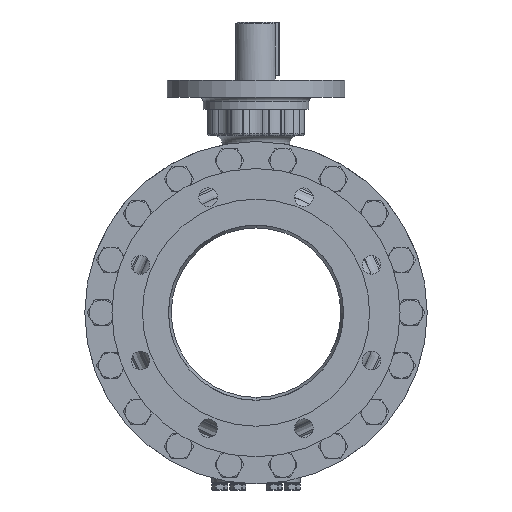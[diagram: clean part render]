
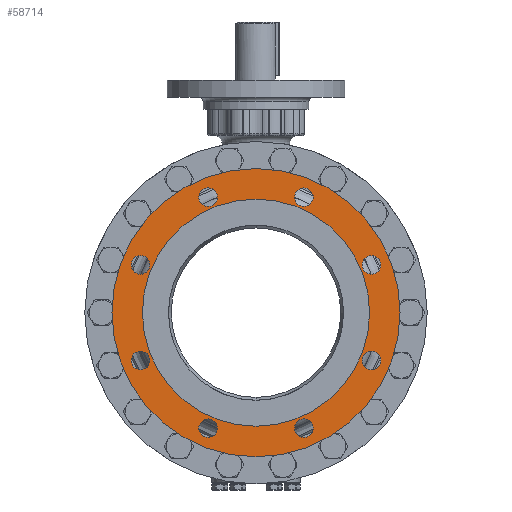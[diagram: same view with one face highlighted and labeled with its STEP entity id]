
A CAD part, left-side view. The second image highlights one B-rep face of the part: STEP entity #58714.
In plain terms, the highlighted planar face has unit normal (-1, 0, 0).
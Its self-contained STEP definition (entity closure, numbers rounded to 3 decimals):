
#4005=CARTESIAN_POINT('',(-225.5,0.,0.));
#4006=DIRECTION('',(-1.,0.,0.));
#4007=DIRECTION('',(0.,0.,1.));
#4008=AXIS2_PLACEMENT_3D('',#4005,#4006,#4007);
#4010=CARTESIAN_POINT('',(-225.5,0.,0.));
#4011=DIRECTION('',(-1.,0.,0.));
#4012=DIRECTION('',(0.,0.,-1.));
#4013=AXIS2_PLACEMENT_3D('',#4010,#4011,#4012);
#4015=CARTESIAN_POINT('',(-225.5,-56.446,136.272));
#4016=DIRECTION('',(-1.,0.,0.));
#4017=DIRECTION('',(0.,-1.,0.));
#4018=AXIS2_PLACEMENT_3D('',#4015,#4016,#4017);
#4020=CARTESIAN_POINT('',(-225.5,-56.446,136.272));
#4021=DIRECTION('',(-1.,0.,0.));
#4022=DIRECTION('',(0.,1.,0.));
#4023=AXIS2_PLACEMENT_3D('',#4020,#4021,#4022);
#4025=CARTESIAN_POINT('',(-225.5,56.446,136.272));
#4026=DIRECTION('',(-1.,0.,0.));
#4027=DIRECTION('',(0.,-0.707,0.707));
#4028=AXIS2_PLACEMENT_3D('',#4025,#4026,#4027);
#4030=CARTESIAN_POINT('',(-225.5,56.446,136.272));
#4031=DIRECTION('',(-1.,0.,0.));
#4032=DIRECTION('',(0.,0.707,-0.707));
#4033=AXIS2_PLACEMENT_3D('',#4030,#4031,#4032);
#4035=CARTESIAN_POINT('',(-225.5,136.272,56.446));
#4036=DIRECTION('',(-1.,0.,0.));
#4037=DIRECTION('',(0.,0.,1.));
#4038=AXIS2_PLACEMENT_3D('',#4035,#4036,#4037);
#4040=CARTESIAN_POINT('',(-225.5,136.272,56.446));
#4041=DIRECTION('',(-1.,0.,0.));
#4042=DIRECTION('',(0.,0.,-1.));
#4043=AXIS2_PLACEMENT_3D('',#4040,#4041,#4042);
#4045=CARTESIAN_POINT('',(-225.5,136.272,-56.446));
#4046=DIRECTION('',(-1.,0.,0.));
#4047=DIRECTION('',(0.,0.707,0.707));
#4048=AXIS2_PLACEMENT_3D('',#4045,#4046,#4047);
#4050=CARTESIAN_POINT('',(-225.5,136.272,-56.446));
#4051=DIRECTION('',(-1.,0.,0.));
#4052=DIRECTION('',(0.,-0.707,-0.707));
#4053=AXIS2_PLACEMENT_3D('',#4050,#4051,#4052);
#4055=CARTESIAN_POINT('',(-225.5,56.446,-136.272));
#4056=DIRECTION('',(-1.,0.,0.));
#4057=DIRECTION('',(0.,1.,0.));
#4058=AXIS2_PLACEMENT_3D('',#4055,#4056,#4057);
#4060=CARTESIAN_POINT('',(-225.5,56.446,-136.272));
#4061=DIRECTION('',(-1.,0.,0.));
#4062=DIRECTION('',(0.,-1.,0.));
#4063=AXIS2_PLACEMENT_3D('',#4060,#4061,#4062);
#4065=CARTESIAN_POINT('',(-225.5,-56.446,-136.272));
#4066=DIRECTION('',(-1.,0.,0.));
#4067=DIRECTION('',(0.,0.707,-0.707));
#4068=AXIS2_PLACEMENT_3D('',#4065,#4066,#4067);
#4070=CARTESIAN_POINT('',(-225.5,-56.446,-136.272));
#4071=DIRECTION('',(-1.,0.,0.));
#4072=DIRECTION('',(0.,-0.707,0.707));
#4073=AXIS2_PLACEMENT_3D('',#4070,#4071,#4072);
#4075=CARTESIAN_POINT('',(-225.5,-136.272,-56.446));
#4076=DIRECTION('',(-1.,0.,0.));
#4077=DIRECTION('',(0.,0.,-1.));
#4078=AXIS2_PLACEMENT_3D('',#4075,#4076,#4077);
#4080=CARTESIAN_POINT('',(-225.5,-136.272,-56.446));
#4081=DIRECTION('',(-1.,0.,0.));
#4082=DIRECTION('',(0.,0.,1.));
#4083=AXIS2_PLACEMENT_3D('',#4080,#4081,#4082);
#4085=CARTESIAN_POINT('',(-225.5,-136.272,56.446));
#4086=DIRECTION('',(-1.,0.,0.));
#4087=DIRECTION('',(0.,-0.707,-0.707));
#4088=AXIS2_PLACEMENT_3D('',#4085,#4086,#4087);
#4090=CARTESIAN_POINT('',(-225.5,-136.272,56.446));
#4091=DIRECTION('',(-1.,0.,0.));
#4092=DIRECTION('',(0.,0.707,0.707));
#4093=AXIS2_PLACEMENT_3D('',#4090,#4091,#4092);
#4099=CARTESIAN_POINT('',(-225.5,0.,0.));
#4100=DIRECTION('',(-1.,0.,0.));
#4101=DIRECTION('',(0.,0.,1.));
#4102=AXIS2_PLACEMENT_3D('',#4099,#4100,#4101);
#4128=CARTESIAN_POINT('',(-225.5,0.,0.));
#4129=DIRECTION('',(1.,0.,0.));
#4130=DIRECTION('',(0.,0.,1.));
#4131=AXIS2_PLACEMENT_3D('',#4128,#4129,#4130);
#48798=CARTESIAN_POINT('',(-225.5,0.,134.));
#48799=CARTESIAN_POINT('',(-225.5,0.,-134.));
#48800=VERTEX_POINT('',#48798);
#48801=VERTEX_POINT('',#48799);
#48802=CARTESIAN_POINT('',(-225.5,0.,170.));
#48803=CARTESIAN_POINT('',(-225.5,0.,-170.));
#48804=VERTEX_POINT('',#48802);
#48805=VERTEX_POINT('',#48803);
#48818=CARTESIAN_POINT('',(-225.5,-67.446,136.272));
#48819=CARTESIAN_POINT('',(-225.5,-45.446,136.272));
#48820=VERTEX_POINT('',#48818);
#48821=VERTEX_POINT('',#48819);
#48826=CARTESIAN_POINT('',(-225.5,48.668,144.05));
#48827=CARTESIAN_POINT('',(-225.5,64.224,128.494));
#48828=VERTEX_POINT('',#48826);
#48829=VERTEX_POINT('',#48827);
#48834=CARTESIAN_POINT('',(-225.5,136.272,67.446));
#48835=CARTESIAN_POINT('',(-225.5,136.272,45.446));
#48836=VERTEX_POINT('',#48834);
#48837=VERTEX_POINT('',#48835);
#48842=CARTESIAN_POINT('',(-225.5,144.05,-48.668));
#48843=CARTESIAN_POINT('',(-225.5,128.494,-64.224));
#48844=VERTEX_POINT('',#48842);
#48845=VERTEX_POINT('',#48843);
#48850=CARTESIAN_POINT('',(-225.5,67.446,-136.272));
#48851=CARTESIAN_POINT('',(-225.5,45.446,-136.272));
#48852=VERTEX_POINT('',#48850);
#48853=VERTEX_POINT('',#48851);
#48858=CARTESIAN_POINT('',(-225.5,-48.668,-144.05));
#48859=CARTESIAN_POINT('',(-225.5,-64.224,-128.494));
#48860=VERTEX_POINT('',#48858);
#48861=VERTEX_POINT('',#48859);
#48866=CARTESIAN_POINT('',(-225.5,-136.272,-67.446));
#48867=CARTESIAN_POINT('',(-225.5,-136.272,-45.446));
#48868=VERTEX_POINT('',#48866);
#48869=VERTEX_POINT('',#48867);
#48874=CARTESIAN_POINT('',(-225.5,-144.05,48.668));
#48875=CARTESIAN_POINT('',(-225.5,-128.494,64.224));
#48876=VERTEX_POINT('',#48874);
#48877=VERTEX_POINT('',#48875);
#58650=CARTESIAN_POINT('',(-225.5,0.,0.));
#58651=DIRECTION('',(1.,0.,0.));
#58652=DIRECTION('',(0.,0.,1.));
#58653=AXIS2_PLACEMENT_3D('',#58650,#58651,#58652);
#58654=PLANE('',#58653);
#58656=ORIENTED_EDGE('',*,*,#58655,.F.);
#58657=ORIENTED_EDGE('',*,*,#58640,.F.);
#58658=EDGE_LOOP('',(#58656,#58657));
#58659=FACE_OUTER_BOUND('',#58658,.F.);
#58661=ORIENTED_EDGE('',*,*,#58660,.T.);
#58663=ORIENTED_EDGE('',*,*,#58662,.F.);
#58664=EDGE_LOOP('',(#58661,#58663));
#58665=FACE_BOUND('',#58664,.F.);
#58667=ORIENTED_EDGE('',*,*,#58666,.T.);
#58669=ORIENTED_EDGE('',*,*,#58668,.T.);
#58670=EDGE_LOOP('',(#58667,#58669));
#58671=FACE_BOUND('',#58670,.F.);
#58673=ORIENTED_EDGE('',*,*,#58672,.T.);
#58675=ORIENTED_EDGE('',*,*,#58674,.T.);
#58676=EDGE_LOOP('',(#58673,#58675));
#58677=FACE_BOUND('',#58676,.F.);
#58679=ORIENTED_EDGE('',*,*,#58678,.T.);
#58681=ORIENTED_EDGE('',*,*,#58680,.T.);
#58682=EDGE_LOOP('',(#58679,#58681));
#58683=FACE_BOUND('',#58682,.F.);
#58685=ORIENTED_EDGE('',*,*,#58684,.T.);
#58687=ORIENTED_EDGE('',*,*,#58686,.T.);
#58688=EDGE_LOOP('',(#58685,#58687));
#58689=FACE_BOUND('',#58688,.F.);
#58691=ORIENTED_EDGE('',*,*,#58690,.T.);
#58693=ORIENTED_EDGE('',*,*,#58692,.T.);
#58694=EDGE_LOOP('',(#58691,#58693));
#58695=FACE_BOUND('',#58694,.F.);
#58697=ORIENTED_EDGE('',*,*,#58696,.T.);
#58699=ORIENTED_EDGE('',*,*,#58698,.T.);
#58700=EDGE_LOOP('',(#58697,#58699));
#58701=FACE_BOUND('',#58700,.F.);
#58703=ORIENTED_EDGE('',*,*,#58702,.T.);
#58705=ORIENTED_EDGE('',*,*,#58704,.T.);
#58706=EDGE_LOOP('',(#58703,#58705));
#58707=FACE_BOUND('',#58706,.F.);
#58709=ORIENTED_EDGE('',*,*,#58708,.T.);
#58711=ORIENTED_EDGE('',*,*,#58710,.T.);
#58712=EDGE_LOOP('',(#58709,#58711));
#58713=FACE_BOUND('',#58712,.F.);
#58714=ADVANCED_FACE('',(#58659,#58665,#58671,#58677,#58683,#58689,#58695,
#58701,#58707,#58713),#58654,.F.);
#4009=CIRCLE('',#4008,170.);
#4014=CIRCLE('',#4013,170.);
#4019=CIRCLE('',#4018,11.);
#4024=CIRCLE('',#4023,11.);
#4029=CIRCLE('',#4028,11.);
#4034=CIRCLE('',#4033,11.);
#4039=CIRCLE('',#4038,11.);
#4044=CIRCLE('',#4043,11.);
#4049=CIRCLE('',#4048,11.);
#4054=CIRCLE('',#4053,11.);
#4059=CIRCLE('',#4058,11.);
#4064=CIRCLE('',#4063,11.);
#4069=CIRCLE('',#4068,11.);
#4074=CIRCLE('',#4073,11.);
#4079=CIRCLE('',#4078,11.);
#4084=CIRCLE('',#4083,11.);
#4089=CIRCLE('',#4088,11.);
#4094=CIRCLE('',#4093,11.);
#4103=CIRCLE('',#4102,134.);
#4132=CIRCLE('',#4131,134.);
#58640=EDGE_CURVE('',#48805,#48804,#4014,.T.);
#58655=EDGE_CURVE('',#48804,#48805,#4009,.T.);
#58660=EDGE_CURVE('',#48800,#48801,#4103,.T.);
#58662=EDGE_CURVE('',#48800,#48801,#4132,.T.);
#58666=EDGE_CURVE('',#48820,#48821,#4019,.T.);
#58668=EDGE_CURVE('',#48821,#48820,#4024,.T.);
#58672=EDGE_CURVE('',#48828,#48829,#4029,.T.);
#58674=EDGE_CURVE('',#48829,#48828,#4034,.T.);
#58678=EDGE_CURVE('',#48836,#48837,#4039,.T.);
#58680=EDGE_CURVE('',#48837,#48836,#4044,.T.);
#58684=EDGE_CURVE('',#48844,#48845,#4049,.T.);
#58686=EDGE_CURVE('',#48845,#48844,#4054,.T.);
#58690=EDGE_CURVE('',#48852,#48853,#4059,.T.);
#58692=EDGE_CURVE('',#48853,#48852,#4064,.T.);
#58696=EDGE_CURVE('',#48860,#48861,#4069,.T.);
#58698=EDGE_CURVE('',#48861,#48860,#4074,.T.);
#58702=EDGE_CURVE('',#48868,#48869,#4079,.T.);
#58704=EDGE_CURVE('',#48869,#48868,#4084,.T.);
#58708=EDGE_CURVE('',#48876,#48877,#4089,.T.);
#58710=EDGE_CURVE('',#48877,#48876,#4094,.T.);
